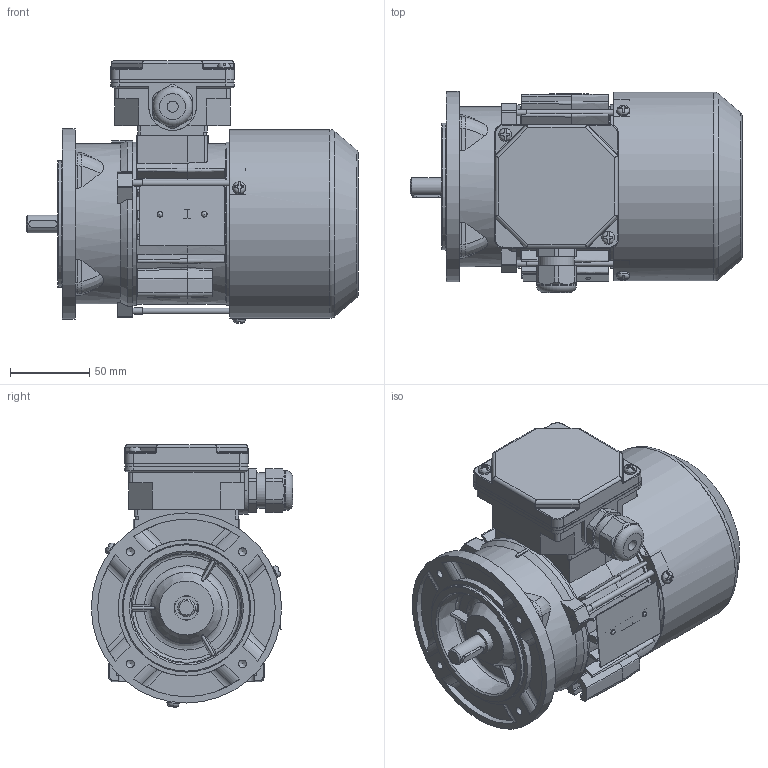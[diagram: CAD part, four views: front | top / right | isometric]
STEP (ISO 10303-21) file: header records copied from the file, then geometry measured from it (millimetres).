
FILE_DESCRIPTION(/* description */ ('Unknown'),/* implementation_level */ '2;1');
FILE_NAME(/* name */ '2SIEK63-4B1',/* time_stamp */ '2021-04-12T11:42:32+02:00',/* author */ ('Unknown'),/* organization */ ('Unknown'),/* preprocessor_version */ 'ST-DEVELOPER v16.7',/* originating_system */ 'Solid Edge',/* authorisation */ 'Unknown');
FILE_SCHEMA (('AUTOMOTIVE_DESIGN {1 0 10303 214 3 1 1}'));
Length unit declared in the file: millimetre
Products named in the file (1): 2SIEK63-4B1
Bounding box: 209.49 x 127 x 165.7 mm (x, y, z)
Volume: 500040.4 mm3; surface area: 319275.1 mm2
Topology: 2 solids, 2 shells, 1802 faces, 5074 edges, 3304 vertices
Faces by surface type: plane 897, cylinder 527, torus 127, bspline 116, cone 114, sphere 21
Full cylindrical faces by diameter (mm): 2.4 x2, 3.3 x3, 3.7 x7, 4 x5, 4.5 x3, 4.8 x2, 5 x6, 7 x4, 8 x6, 10.999 x1, 12.899 x1, 13.099 x1, 14.998 x2, 15.4 x2, 18.998 x2, 19.498 x1, 19.998 x1, 20.098 x1, 21.518 x4, 22.3 x1, 25 x1, 28 x2, 28.48 x4, 31 x2, 35 x3, 71.993 x1, 80 x1, 96 x1, 99 x2, 101 x1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
Entity records: 73223 total; most frequent: CARTESIAN_POINT 16154, ORIENTED_EDGE 9518, DIRECTION 8800, EDGE_CURVE 4759, AXIS2_PLACEMENT_3D 3246, VERTEX_POINT 3187, LINE 2308, VECTOR 2308
